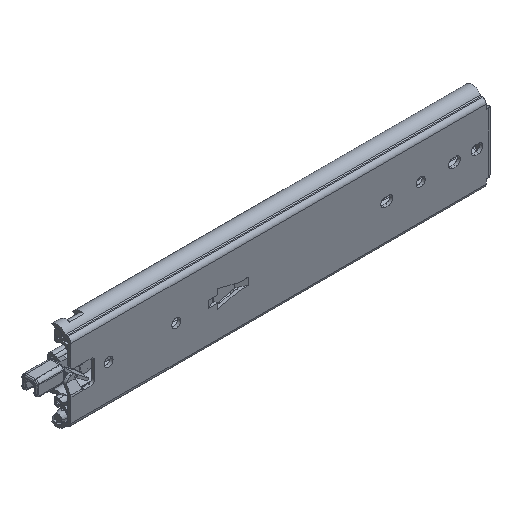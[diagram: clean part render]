
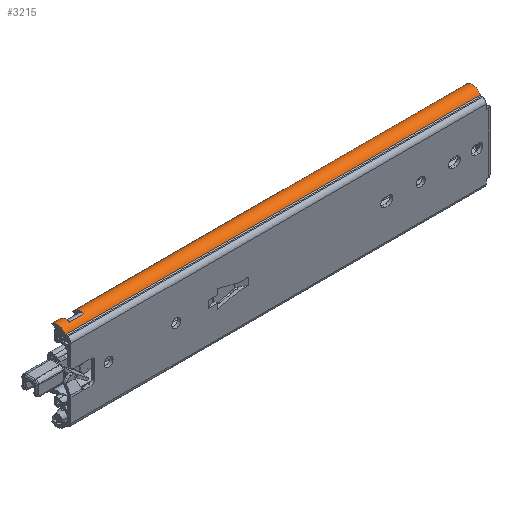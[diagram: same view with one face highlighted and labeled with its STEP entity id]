
A CAD part, isometric view. The second image highlights one B-rep face of the part: STEP entity #3215.
In plain terms, the highlighted cylindrical face has radius 7.25 mm (diameter 14.5 mm), a partial arc.
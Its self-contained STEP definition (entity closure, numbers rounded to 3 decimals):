
#5=CARTESIAN_POINT('',(0.,11.5,30.4));
#6=DIRECTION('',(1.,0.,0.));
#7=DIRECTION('',(0.,0.632,0.775));
#8=AXIS2_PLACEMENT_3D('',#5,#6,#7);
#827=CARTESIAN_POINT('',(350.6,11.5,30.4));
#828=DIRECTION('',(1.,0.,0.));
#829=DIRECTION('',(0.,0.38,0.925));
#830=AXIS2_PLACEMENT_3D('',#827,#828,#829);
#876=CARTESIAN_POINT('',(1.401,17.079,35.031));
#877=CARTESIAN_POINT('',(0.932,16.779,35.392));
#878=CARTESIAN_POINT('',(0.465,16.446,35.722));
#879=CARTESIAN_POINT('',(0.,16.079,
36.021));
#881=DIRECTION('',(1.,0.,0.));
#882=VECTOR('',#881,6.099);
#883=CARTESIAN_POINT('',(1.401,17.079,35.031));
#884=LINE('',#883,#882);
#885=CARTESIAN_POINT('',(7.5,11.5,30.4));
#886=DIRECTION('',(1.,0.,0.));
#887=DIRECTION('',(0.,0.769,0.639));
#888=AXIS2_PLACEMENT_3D('',#885,#886,#887);
#890=CARTESIAN_POINT('',(19.5,11.5,30.4));
#891=DIRECTION('',(1.,0.,0.));
#892=DIRECTION('',(0.,0.769,0.639));
#893=AXIS2_PLACEMENT_3D('',#890,#891,#892);
#895=DIRECTION('',(1.,0.,0.));
#896=VECTOR('',#895,329.765);
#897=CARTESIAN_POINT('',(19.5,17.079,35.031));
#898=LINE('',#897,#896);
#899=CARTESIAN_POINT('',(350.6,14.255,37.106));
#900=CARTESIAN_POINT('',(350.6,14.486,37.011));
#901=CARTESIAN_POINT('',(350.571,14.942,36.797));
#902=CARTESIAN_POINT('',(350.416,15.607,36.391));
#903=CARTESIAN_POINT('',(350.14,16.203,35.934));
#904=CARTESIAN_POINT('',(349.731,16.72,35.445));
#905=CARTESIAN_POINT('',(349.426,16.968,35.164));
#906=CARTESIAN_POINT('',(349.265,17.079,35.031));
#908=DIRECTION('',(1.,0.,0.));
#909=VECTOR('',#908,350.6);
#910=CARTESIAN_POINT('',(0.,4.916,33.436));
#911=LINE('',#910,#909);
#1221=DIRECTION('',(1.,0.,0.));
#1222=VECTOR('',#1221,12.);
#1223=CARTESIAN_POINT('',(7.5,8.515,37.007));
#1224=LINE('',#1223,#1222);
#1676=CARTESIAN_POINT('',(0.,4.916,33.436));
#1678=VERTEX_POINT('',#1676);
#1700=CARTESIAN_POINT('',(7.5,17.079,35.031));
#1702=VERTEX_POINT('',#1700);
#1704=CARTESIAN_POINT('',(19.5,17.079,35.031));
#1706=VERTEX_POINT('',#1704);
#1751=CARTESIAN_POINT('',(7.5,8.515,37.007));
#1752=VERTEX_POINT('',#1751);
#1753=CARTESIAN_POINT('',(19.5,8.515,37.007));
#1754=VERTEX_POINT('',#1753);
#1992=CARTESIAN_POINT('',(350.6,4.916,33.436));
#1993=VERTEX_POINT('',#1992);
#2050=VERTEX_POINT('',#899);
#2051=VERTEX_POINT('',#906);
#2074=CARTESIAN_POINT('',(1.401,17.079,35.031));
#2075=VERTEX_POINT('',#2074);
#2076=VERTEX_POINT('',#879);
#3192=CARTESIAN_POINT('',(0.,11.5,30.4));
#3193=DIRECTION('',(1.,0.,0.));
#3194=DIRECTION('',(0.,-1.,0.));
#3195=AXIS2_PLACEMENT_3D('',#3192,#3193,#3194);
#3196=CYLINDRICAL_SURFACE('',#3195,7.25);
#3197=ORIENTED_EDGE('',*,*,#2224,.F.);
#3199=ORIENTED_EDGE('',*,*,#3198,.T.);
#3201=ORIENTED_EDGE('',*,*,#3200,.T.);
#3203=ORIENTED_EDGE('',*,*,#3202,.T.);
#3205=ORIENTED_EDGE('',*,*,#3204,.F.);
#3207=ORIENTED_EDGE('',*,*,#3206,.T.);
#3208=ORIENTED_EDGE('',*,*,#3179,.F.);
#3209=ORIENTED_EDGE('',*,*,#3140,.T.);
#3211=ORIENTED_EDGE('',*,*,#3210,.F.);
#3212=ORIENTED_EDGE('',*,*,#2146,.F.);
#3213=EDGE_LOOP('',(#3197,#3199,#3201,#3203,#3205,#3207,#3208,#3209,#3211,
#3212));
#3214=FACE_OUTER_BOUND('',#3213,.F.);
#9=CIRCLE('',#8,7.25);
#831=CIRCLE('',#830,7.25);
#880=B_SPLINE_CURVE_WITH_KNOTS('',3,(#876,#877,#878,#879),.UNSPECIFIED.,.F.,.F.,
(4,4),(0.,1.),.UNSPECIFIED.);
#889=CIRCLE('',#888,7.25);
#894=CIRCLE('',#893,7.25);
#907=B_SPLINE_CURVE_WITH_KNOTS('',3,(#899,#900,#901,#902,#903,#904,#905,#906),
.UNSPECIFIED.,.F.,.F.,(4,1,1,1,1,4),(0.,0.2,0.4,0.6,0.8,1.),
.UNSPECIFIED.);
#2146=EDGE_CURVE('',#2076,#1678,#9,.T.);
#2224=EDGE_CURVE('',#2075,#2076,#880,.T.);
#3140=EDGE_CURVE('',#2050,#1993,#831,.T.);
#3179=EDGE_CURVE('',#2050,#2051,#907,.T.);
#3198=EDGE_CURVE('',#2075,#1702,#884,.T.);
#3200=EDGE_CURVE('',#1702,#1752,#889,.T.);
#3202=EDGE_CURVE('',#1752,#1754,#1224,.T.);
#3204=EDGE_CURVE('',#1706,#1754,#894,.T.);
#3206=EDGE_CURVE('',#1706,#2051,#898,.T.);
#3210=EDGE_CURVE('',#1678,#1993,#911,.T.);
#3215=ADVANCED_FACE('',(#3214),#3196,.T.);
